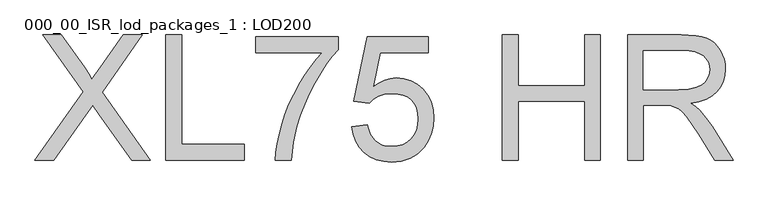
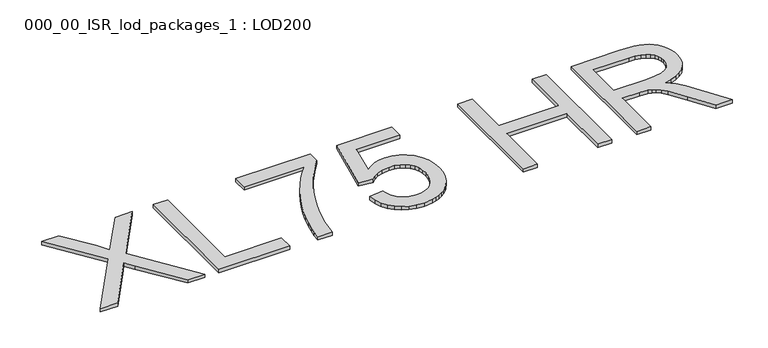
"""IFC4 building model written with IfcOpenShell, lengths in millimetres: proxy geometry, 000_00_ISR_lod_packages_1 : LOD200."""

from ifc_helpers import new_model, si_unit, origin, origin_with_axes, place, context, project, spatial, polyline, outline, extrude, source, transform, mapped, element, save


def proxy_000_00_isr_lod_packages_1_lod200_af263f32(model_context):
    return source(origin(), model_context, "Body", "SweptSolid", [
        extrude(outline(polyline([(500.0, 500.0), (808.1627819, 935.6043884), (549.9617936, 1299.3886983), (669.7920331, 1299.3886983), (815.1886591, 1094.6624423), (849.878928, 1042.7978069), (864.1746365, 1014.8406705), (921.5526339, 1096.0285851), (1065.3879539, 1299.3886983), (1186.9746626, 1299.3886983), (928.7736744, 934.4334088), (1236.9364563, 500.0), (1117.1062168, 500.0), (911.7944711, 789.6222725), (869.0537179, 849.7325555), (822.0193731, 783.7673749), (621.5867088, 500.0), (500.0, 500.0)])), origin_with_axes(), (0.0, 0.0, 1.0), 25.0),
        extrude(outline(polyline([(1336.8600436, 500.0), (1336.8600436, 1299.3886983), (1436.7836309, 1299.3886983), (1436.7836309, 599.9235873), (1836.47798, 599.9235873), (1836.47798, 500.0), (1336.8600436, 500.0)])), origin_with_axes(), (0.0, 0.0, 1.0), 25.0),
        extrude(outline(polyline([(1911.4206705, 1186.9746626), (1911.4206705, 1286.8982499), (2436.0195038, 1286.8982499), (2436.0195038, 1206.1006618), (2398.5420597, 1161.9998647), (2361.2475812, 1111.4708778), (2324.1360682, 1054.5137012), (2287.2075208, 991.1283348), (2252.4623623, 924.059262), (2221.9010161, 856.050966), (2195.5234822, 787.1034468), (2173.3297606, 717.2167044), (2149.5198434, 613.3410612), (2136.2487419, 500.0), (2036.3251546, 500.0), (2039.4660633, 549.0713613), (2047.13232, 602.9974086), (2059.3239246, 661.7781419), (2076.0408773, 725.4135612), (2097.0880147, 790.8847349), (2122.2701737, 855.1727313), (2151.5873541, 918.2775505), (2185.039556, 980.1991924), (2221.1203631, 1039.1201993), (2258.3233588, 1093.2231133), (2296.6485433, 1142.5079344), (2336.0959165, 1186.9746626), (1911.4206705, 1186.9746626)])), origin_with_axes(), (0.0, 0.0, 1.0), 25.0),
        extrude(outline(polyline([(2523.4526427, 712.337623), (2623.37623, 724.8280714), (2630.8412245, 692.7054192), (2641.7215761, 664.8397655), (2656.0172846, 641.2311103), (2673.7283501, 621.8794536), (2694.8181795, 606.8091909), (2719.2501797, 596.0447176), (2747.0243506, 589.5860336), (2778.1406923, 587.4331389), (2816.1975273, 590.4276751), (2849.7656074, 599.4112837), (2878.8449326, 614.3839648), (2903.4355029, 635.3457183), (2922.9884217, 661.2597395), (2936.9547922, 691.0892235), (2945.3346146, 724.8341703), (2948.1278887, 762.4945799), (2945.5114813, 798.0874788), (2937.662259, 829.7283217), (2924.580222, 857.4171087), (2906.2653702, 881.1538398), (2882.656715, 900.194455), (2853.693268, 913.7948944), (2819.3750291, 921.9551581), (2779.7019984, 924.675246), (2731.2283246, 920.3328635), (2691.9761146, 907.3057162), (2660.6280165, 887.3502732), (2635.8666784, 862.2230039), (2535.9430911, 874.7134523), (2623.37623, 1286.8982499), (3010.5801307, 1286.8982499), (3010.5801307, 1186.9746626), (2704.1738181, 1186.9746626), (2661.433065, 966.8305094), (2696.6966259, 992.1041511), (2732.814026, 1010.1567523), (2769.7852654, 1020.988313), (2807.610344, 1024.5988333), (2856.2730823, 1020.1222761), (2900.9715668, 1006.6926045), (2941.7057978, 984.3098185), (2978.475775, 952.9739182), (3008.9151442, 914.5999429), (3030.6575507, 871.1029321), (3043.7029947, 822.4828858), (3048.051476, 768.7398041), (3044.1360131, 716.9727503), (3032.3896246, 668.8162168), (3012.8123105, 624.2702035), (2985.4040707, 583.3347105), (2965.5096162, 560.8756889), (2943.8830878, 541.4112035), (2920.5244856, 524.9412543), (2895.4338094, 511.4658413), (2868.6110594, 500.9849646), (2840.0562354, 493.498624), (2777.7503658, 487.5095516), (2726.1845741, 491.3579271), (2679.6076432, 502.9030534), (2638.0195731, 522.1449308), (2601.4203636, 549.083559), (2570.9687968, 582.3771908), (2547.8236543, 620.6840787), (2531.9849363, 664.0042228), (2523.4526427, 712.337623)])), origin_with_axes(), (0.0, 0.0, 1.0), 25.0),
        extrude(outline(polyline([(3485.2171704, 500.0), (3485.2171704, 1299.3886983), (3585.1407577, 1299.3886983), (3585.1407577, 974.6370396), (4009.8160037, 974.6370396), (4009.8160037, 1299.3886983), (4109.739591, 1299.3886983), (4109.739591, 500.0), (4009.8160037, 500.0), (4009.8160037, 874.7134523), (3585.1407577, 874.7134523), (3585.1407577, 500.0), (3485.2171704, 500.0)])), origin_with_axes(), (0.0, 0.0, 1.0), 25.0),
        extrude(outline(polyline([(4284.6058687, 500.0), (4284.6058687, 1299.3886983), (4629.0690163, 1299.3886983), (4721.6495861, 1293.9973134), (4758.4805519, 1287.2580822), (4789.005305, 1277.8231585), (4814.9986112, 1264.966779), (4838.2352364, 1247.9631803), (4858.7151806, 1226.8123624), (4876.4384438, 1201.5143252), (4890.7402512, 1173.4291129), (4900.9558279, 1143.9167692), (4907.085174, 1112.9772942), (4909.1282893, 1080.6106879), (4905.7434266, 1039.5532178), (4895.5888384, 1001.8623139), (4878.6645247, 967.5379762), (4854.9704856, 936.5802046), (4824.2017785, 909.9770132), (4786.0534607, 888.716416), (4740.5255323, 872.7984129), (4687.6179932, 862.2230039), (4720.5517928, 840.7062549), (4744.4105009, 819.4822508), (4785.3459939, 770.9353907), (4825.4032523, 716.6312146), (4958.6997564, 500.0), (4842.5776188, 500.0), (4738.5556032, 665.6936047), (4663.4177494, 775.3753548), (4635.4850084, 807.3577335), (4610.6260886, 827.1911994), (4587.0845208, 838.8278086), (4563.1038356, 846.2196169), (4505.1403485, 849.7325555), (4384.529456, 849.7325555), (4384.529456, 500.0), (4284.6058687, 500.0)]), holes=[polyline([(4384.529456, 949.6561428), (4608.1865479, 949.6561428), (4672.4196546, 953.1934768), (4722.2594713, 963.8054789), (4759.7796073, 982.1996158), (4774.6973987, 994.5802849), (4787.0536724, 1009.0833544), (4803.6669446, 1041.602432), (4809.204702, 1076.902586), (4806.5638992, 1102.4567749), (4798.6414907, 1125.6446093), (4785.4374767, 1146.4660892), (4766.951857, 1164.9212147), (4742.757712, 1180.0341693), (4712.4281222, 1190.829137), (4675.9630875, 1197.3061175), (4633.362608, 1199.465111), (4384.529456, 1199.465111), (4384.529456, 949.6561428)])]), origin_with_axes(), (0.0, 0.0, 1.0), 25.0),
    ])


if __name__ == "__main__":
    model = new_model("IFC4")
    model_context = context("Model", 3, world=origin())
    ifc_project = project(units=[si_unit("LENGTHUNIT", "METRE", prefix="MILLI")], contexts=[model_context])
    site = spatial("IfcSite", under=ifc_project)
    building = spatial("IfcBuilding", under=site)
    placement = place(None, origin())
    proxy_000_00_isr_lod_packages_1_lod200_shape = proxy_000_00_isr_lod_packages_1_lod200_af263f32(model_context)
    element("IfcBuildingElementProxy", 1, Name="000_00_ISR_lod_packages_1 : LOD200", ObjectType="000_00_ISR_lod_packages_1 : LOD200", at=placement, inside=building, context=model_context, shape_type="MappedRepresentation", body=[
        mapped(proxy_000_00_isr_lod_packages_1_lod200_shape, transform((0.0, 0.0, 0.0), x_axis=(1.0, 0.0, 0.0), y_axis=(0.0, 1.0, 0.0), z_axis=(0.0, 0.0, 1.0))),
    ])
    save(model, "model.ifc")
